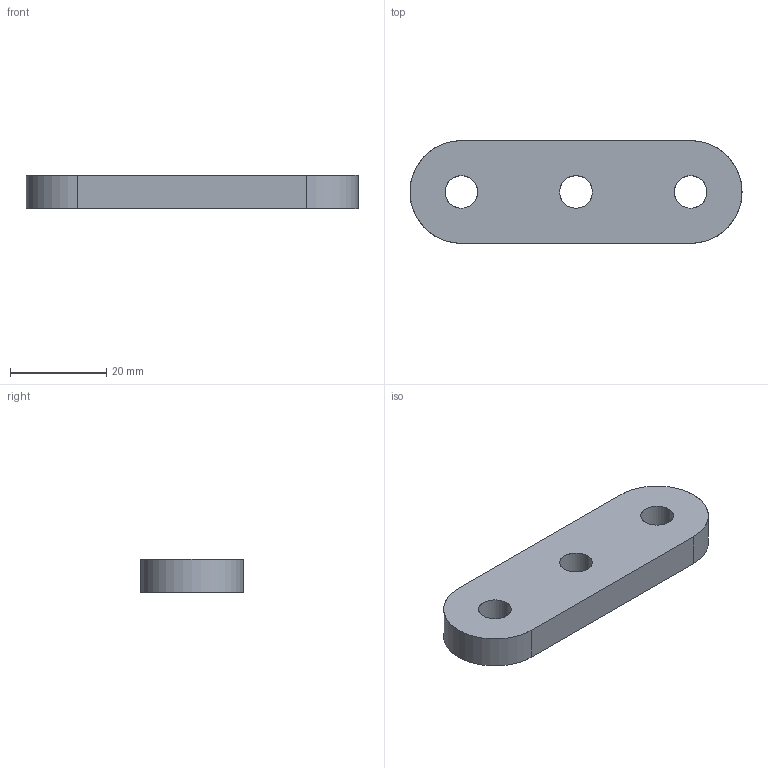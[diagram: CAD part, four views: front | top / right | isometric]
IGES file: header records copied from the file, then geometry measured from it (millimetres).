
Start section: SolidWorks IGES file using analytic representation for surfaces
Global section: file name: \\SERVER3\Design\_New Design Drive Folder List\_Design Vault\AAI\Modular Round Tube Connectors\Solidworks Models\STP Files\12202013\0.750 Inch Modular Connectors\DRP-002-0538-00.IGS; native system: SolidWorks 2013; preprocessor: SolidWorks 2013; author: tbraun; date: 131220.123852; units: inch
Bounding box: 68.96 x 21.34 x 6.86 mm (x, y, z)
Surface area: 4081.8 mm2 (no closed solid volume)
Topology: 0 solids, 0 shells, 13 faces, 304 edges, 304 vertices
Faces by surface type: revolution 9, bspline 4
